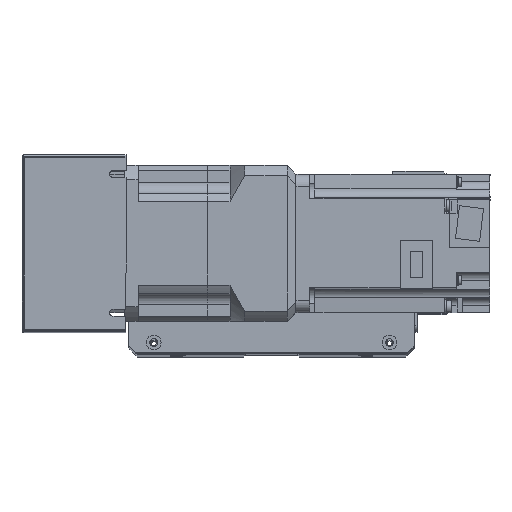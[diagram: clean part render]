
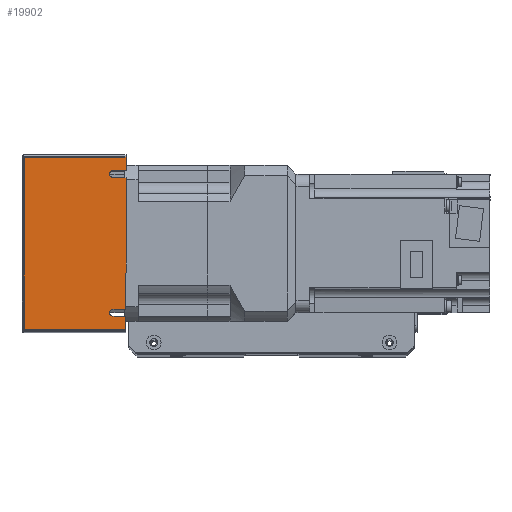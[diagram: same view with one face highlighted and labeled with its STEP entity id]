
A CAD part, top view. The second image highlights one B-rep face of the part: STEP entity #19902.
In plain terms, the highlighted planar face has unit normal (0, 0, 1) as drawn and (-1, 0, 0) by its records, which use the part's own axes.
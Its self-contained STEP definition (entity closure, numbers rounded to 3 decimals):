
#577=PLANE('',#21664);
#1665=LINE('',#31887,#3325);
#1671=LINE('',#31901,#3331);
#1683=LINE('',#31928,#3343);
#1693=LINE('',#31950,#3353);
#1701=LINE('',#31970,#3361);
#1702=LINE('',#31972,#3362);
#1703=LINE('',#31974,#3363);
#1704=LINE('',#31976,#3364);
#1705=LINE('',#31977,#3365);
#1706=LINE('',#31979,#3366);
#3325=VECTOR('',#25792,10.);
#3331=VECTOR('',#25802,10.);
#3343=VECTOR('',#25820,10.);
#3353=VECTOR('',#25834,10.);
#3361=VECTOR('',#25856,10.);
#3362=VECTOR('',#25857,10.);
#3363=VECTOR('',#25858,10.);
#3364=VECTOR('',#25859,10.);
#3365=VECTOR('',#25860,10.);
#3366=VECTOR('',#25863,10.);
#5327=FACE_OUTER_BOUND('',#6735,.T.);
#6735=EDGE_LOOP('',(#16012,#16013,#16014,#16015,#16016,#16017,#16018,#16019,
#16020,#16021,#16022,#16023));
#8155=CIRCLE('',#21659,2.);
#8159=CIRCLE('',#21665,2.);
#9576=VERTEX_POINT('',#31884);
#9577=VERTEX_POINT('',#31886);
#9582=VERTEX_POINT('',#31899);
#9583=VERTEX_POINT('',#31900);
#9594=VERTEX_POINT('',#31926);
#9595=VERTEX_POINT('',#31927);
#9604=VERTEX_POINT('',#31947);
#9605=VERTEX_POINT('',#31949);
#9610=VERTEX_POINT('',#31969);
#9611=VERTEX_POINT('',#31971);
#9612=VERTEX_POINT('',#31973);
#9613=VERTEX_POINT('',#31975);
#11911=EDGE_CURVE('',#9577,#9576,#1665,.T.);
#11917=EDGE_CURVE('',#9582,#9583,#1671,.T.);
#11929=EDGE_CURVE('',#9594,#9595,#1683,.T.);
#11939=EDGE_CURVE('',#9605,#9604,#1693,.T.);
#11941=EDGE_CURVE('',#9583,#9577,#8155,.T.);
#11951=EDGE_CURVE('',#9610,#9576,#1701,.T.);
#11952=EDGE_CURVE('',#9611,#9610,#1702,.T.);
#11953=EDGE_CURVE('',#9612,#9611,#1703,.T.);
#11954=EDGE_CURVE('',#9613,#9612,#1704,.T.);
#11955=EDGE_CURVE('',#9594,#9613,#1705,.T.);
#11956=EDGE_CURVE('',#9595,#9605,#8159,.T.);
#11957=EDGE_CURVE('',#9582,#9604,#1706,.T.);
#16012=ORIENTED_EDGE('',*,*,#11911,.T.);
#16013=ORIENTED_EDGE('',*,*,#11951,.F.);
#16014=ORIENTED_EDGE('',*,*,#11952,.F.);
#16015=ORIENTED_EDGE('',*,*,#11953,.F.);
#16016=ORIENTED_EDGE('',*,*,#11954,.F.);
#16017=ORIENTED_EDGE('',*,*,#11955,.F.);
#16018=ORIENTED_EDGE('',*,*,#11929,.T.);
#16019=ORIENTED_EDGE('',*,*,#11956,.T.);
#16020=ORIENTED_EDGE('',*,*,#11939,.T.);
#16021=ORIENTED_EDGE('',*,*,#11957,.F.);
#16022=ORIENTED_EDGE('',*,*,#11917,.T.);
#16023=ORIENTED_EDGE('',*,*,#11941,.T.);
#19902=ADVANCED_FACE('',(#5327),#577,.T.);
#21659=AXIS2_PLACEMENT_3D('',#31953,#25838,#25839);
#21664=AXIS2_PLACEMENT_3D('',#31968,#25854,#25855);
#21665=AXIS2_PLACEMENT_3D('',#31978,#25861,#25862);
#25792=DIRECTION('',(0.,0.,1.));
#25802=DIRECTION('',(0.,0.,-1.));
#25820=DIRECTION('',(0.,0.,-1.));
#25834=DIRECTION('',(0.,0.,1.));
#25838=DIRECTION('center_axis',(1.,0.,0.));
#25839=DIRECTION('ref_axis',(0.,0.,-1.));
#25854=DIRECTION('center_axis',(-1.,0.,0.));
#25855=DIRECTION('ref_axis',(0.,-1.,0.));
#25856=DIRECTION('',(0.,-1.,0.));
#25857=DIRECTION('',(0.,0.,1.));
#25858=DIRECTION('',(0.,1.,0.));
#25859=DIRECTION('',(0.,0.,-1.));
#25860=DIRECTION('',(0.,-1.,0.));
#25861=DIRECTION('center_axis',(1.,0.,0.));
#25862=DIRECTION('ref_axis',(0.,0.,-1.));
#25863=DIRECTION('',(0.,-1.,0.));
#31884=CARTESIAN_POINT('',(-120.5,42.,30.));
#31886=CARTESIAN_POINT('',(-120.5,42.,22.5));
#31887=CARTESIAN_POINT('',(-120.5,42.,16.304));
#31899=CARTESIAN_POINT('',(-120.5,38.,30.));
#31900=CARTESIAN_POINT('',(-120.5,38.,22.5));
#31901=CARTESIAN_POINT('',(-120.5,38.,11.25));
#31926=CARTESIAN_POINT('',(-120.5,-42.,30.));
#31927=CARTESIAN_POINT('',(-120.5,-42.,22.5));
#31928=CARTESIAN_POINT('',(-120.5,-42.,11.25));
#31947=CARTESIAN_POINT('',(-120.5,-38.,30.));
#31949=CARTESIAN_POINT('',(-120.5,-38.,22.5));
#31950=CARTESIAN_POINT('',(-120.5,-38.,16.169));
#31953=CARTESIAN_POINT('Origin',(-120.5,40.,22.5));
#31968=CARTESIAN_POINT('Origin',(-120.5,51.,0.));
#31969=CARTESIAN_POINT('',(-120.5,50.,30.));
#31970=CARTESIAN_POINT('',(-120.5,-51.,30.));
#31971=CARTESIAN_POINT('',(-120.5,50.,-29.));
#31972=CARTESIAN_POINT('',(-120.5,50.,0.));
#31973=CARTESIAN_POINT('',(-120.5,-50.,-29.));
#31974=CARTESIAN_POINT('',(-120.5,25.5,-29.));
#31975=CARTESIAN_POINT('',(-120.5,-50.,30.));
#31976=CARTESIAN_POINT('',(-120.5,-50.,0.));
#31977=CARTESIAN_POINT('',(-120.5,-51.,30.));
#31978=CARTESIAN_POINT('Origin',(-120.5,-40.,22.5));
#31979=CARTESIAN_POINT('',(-120.5,-51.,30.));
